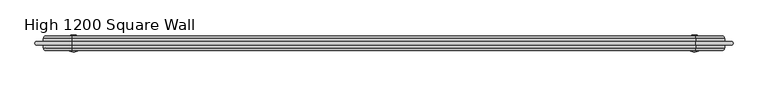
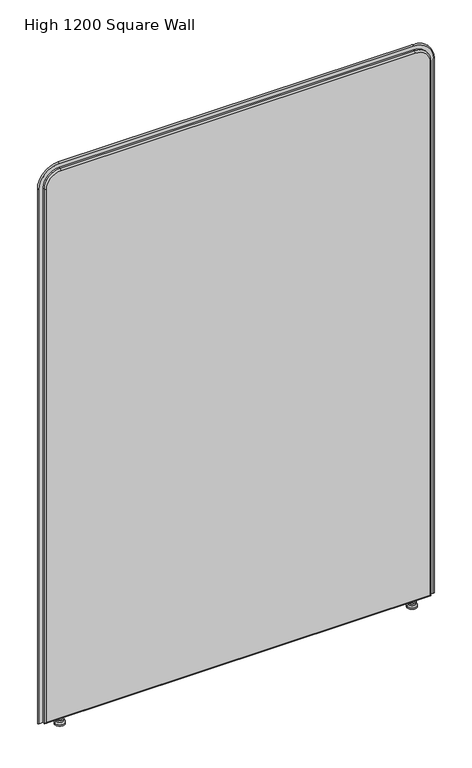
"""IFC4 building model written with IfcOpenShell, lengths in millimetres: furniture geometry, DBLTD_Sixteen3_PrivacyScreens_Artus_Square : High 1200 Square Wall."""

from ifc_helpers import new_model, si_unit, point, frame, origin, place, context, project, spatial, polyline, circle_curve, ellipse_curve, trimmed, source, transform, mapped, element, save
from ifc_brep_helpers import plane_surface, cylinder_surface, revolved_surface, advanced_brep


def high_1200_square_wall_9c159515(model_context):
    return source(origin(), model_context, "Body", "AdvancedBrep", [
        advanced_brep(
        [(542.2938623, 820.0, 22.0), (549.2938623, 820.0, 22.0), (535.2938623, 820.0, 22.0), (549.2938623, 820.0, 15.0), (535.2938623, 820.0, 15.0), (553.744562, 820.0, 15.0), (530.8431626, 820.0, 15.0), (553.744562, 820.0, 10.0), (530.8431626, 820.0, 10.0), (557.2938623, 820.0, 5.0), (527.2938623, 820.0, 5.0), (557.2938623, 820.0, 0.0), (527.2938623, 820.0, 0.0), (542.2938623, 820.0, 0.0)],
        [
            (0, 1),
            (1, 2, circle_curve(frame((542.2938623, 820.0, 22.0), z_axis=(0.0, 0.0, 1.0), x_axis=(1.0, 0.0, 0.0)), 7.0)),
            (2, 0),
            (2, 1, circle_curve(frame((542.2938623, 820.0, 22.0), z_axis=(0.0, 0.0, 1.0), x_axis=(1.0, 0.0, 0.0)), 7.0)),
            (1, 3),
            (3, 4, circle_curve(frame((542.2938623, 820.0, 15.0), z_axis=(0.0, 0.0, 1.0), x_axis=(1.0, 0.0, 0.0)), 7.0)),
            (4, 2),
            (4, 3, circle_curve(frame((542.2938623, 820.0, 15.0), z_axis=(0.0, 0.0, 1.0), x_axis=(1.0, 0.0, 0.0)), 7.0)),
            (3, 5),
            (5, 6, circle_curve(frame((542.2938623, 820.0, 15.0), z_axis=(0.0, 0.0, 1.0), x_axis=(1.0, 0.0, 0.0)), 11.4506997)),
            (6, 4),
            (6, 5, circle_curve(frame((542.2938623, 820.0, 15.0), z_axis=(0.0, 0.0, 1.0), x_axis=(1.0, 0.0, 0.0)), 11.4506997)),
            (5, 7),
            (7, 8, circle_curve(frame((542.2938623, 820.0, 10.0), z_axis=(0.0, 0.0, 1.0), x_axis=(1.0, 0.0, 0.0)), 11.4506997)),
            (8, 6),
            (8, 7, circle_curve(frame((542.2938623, 820.0, 10.0), z_axis=(0.0, 0.0, 1.0), x_axis=(1.0, 0.0, 0.0)), 11.4506997)),
            (7, 9),
            (9, 10, circle_curve(frame((542.2938623, 820.0, 5.0), z_axis=(0.0, 0.0, 1.0), x_axis=(1.0, 0.0, 0.0)), 15.0)),
            (10, 8),
            (10, 9, circle_curve(frame((542.2938623, 820.0, 5.0), z_axis=(0.0, 0.0, 1.0), x_axis=(1.0, 0.0, 0.0)), 15.0)),
            (9, 11),
            (11, 12, circle_curve(frame((542.2938623, 820.0, 0.0), z_axis=(0.0, 0.0, 1.0), x_axis=(1.0, 0.0, 0.0)), 15.0)),
            (12, 10),
            (12, 11, circle_curve(frame((542.2938623, 820.0, 0.0), z_axis=(0.0, 0.0, 1.0), x_axis=(1.0, 0.0, 0.0)), 15.0)),
            (11, 13),
            (13, 12),
        ],
        [
            plane_surface(frame((542.2938623, 820.0, 22.0), z_axis=(0.0, 0.0, 1.0), x_axis=(1.0, 0.0, 0.0))),
            cylinder_surface(frame((542.2938623, 820.0, 5.0), z_axis=(0.0, 0.0, 1.0), x_axis=(1.0, 0.0, 0.0)), 7.0),
            plane_surface(frame((542.2938623, 820.0, 15.0), z_axis=(0.0, 0.0, 1.0), x_axis=(1.0, 0.0, 0.0))),
            cylinder_surface(frame((542.2938623, 820.0, 5.0), z_axis=(0.0, 0.0, 1.0), x_axis=(1.0, 0.0, 0.0)), 11.4506997),
            revolved_surface(polyline([(557.2938623, 820.0, 5.0), (553.744562, 820.0, 10.0)]), (542.2938623, 820.0, 5.0), (0.0, 0.0, 1.0)),
            cylinder_surface(frame((542.2938623, 820.0, 5.0), z_axis=(0.0, 0.0, 1.0), x_axis=(1.0, 0.0, 0.0)), 15.0),
            plane_surface(frame((542.2938623, 820.0, 0.0), z_axis=(0.0, 0.0, -1.0), x_axis=(1.0, 0.0, 0.0))),
        ],
        [
            (0, [[1, 2, 3]]),
            (0, [[-3, 4, -1]]),
            (1, [[-2, 5, 6, 7]]),
            (1, [[-4, -7, 8, -5]]),
            (2, [[-6, 9, 10, 11]]),
            (2, [[-8, -11, 12, -9]]),
            (3, [[-10, 13, 14, 15]]),
            (3, [[-12, -15, 16, -13]]),
            (4, [[-14, 17, 18, 19]]),
            (4, [[-16, -19, 20, -17]]),
            (5, [[-18, 21, 22, 23]]),
            (5, [[-20, -23, 24, -21]]),
            (6, [[-22, 25, 26]]),
            (6, [[-24, -26, -25]]),
        ],
    ),
        advanced_brep(
        [(-535.2938623, 820.0, 22.0), (-549.2938623, 820.0, 22.0), (-542.2938623, 820.0, 22.0), (-535.2938623, 820.0, 15.0), (-549.2938623, 820.0, 15.0), (-530.8431626, 820.0, 15.0), (-553.744562, 820.0, 15.0), (-530.8431626, 820.0, 10.0), (-553.744562, 820.0, 10.0), (-527.2938623, 820.0, 5.0), (-557.2938623, 820.0, 5.0), (-527.2938623, 820.0, 0.0), (-557.2938623, 820.0, 0.0), (-542.2938623, 820.0, 0.0)],
        [
            (0, 1, circle_curve(frame((-542.2938623, 820.0, 22.0), z_axis=(0.0, 0.0, 1.0), x_axis=(-1.0, 0.0, 0.0)), 7.0)),
            (1, 2),
            (2, 0),
            (1, 0, circle_curve(frame((-542.2938623, 820.0, 22.0), z_axis=(0.0, 0.0, 1.0), x_axis=(-1.0, 0.0, 0.0)), 7.0)),
            (3, 4, circle_curve(frame((-542.2938623, 820.0, 15.0), z_axis=(0.0, 0.0, 1.0), x_axis=(-1.0, 0.0, 0.0)), 7.0)),
            (4, 1),
            (0, 3),
            (4, 3, circle_curve(frame((-542.2938623, 820.0, 15.0), z_axis=(0.0, 0.0, 1.0), x_axis=(-1.0, 0.0, 0.0)), 7.0)),
            (5, 6, circle_curve(frame((-542.2938623, 820.0, 15.0), z_axis=(0.0, 0.0, 1.0), x_axis=(-1.0, 0.0, 0.0)), 11.4506997)),
            (6, 4),
            (3, 5),
            (6, 5, circle_curve(frame((-542.2938623, 820.0, 15.0), z_axis=(0.0, 0.0, 1.0), x_axis=(-1.0, 0.0, 0.0)), 11.4506997)),
            (7, 8, circle_curve(frame((-542.2938623, 820.0, 10.0), z_axis=(0.0, 0.0, 1.0), x_axis=(-1.0, 0.0, 0.0)), 11.4506997)),
            (8, 6),
            (5, 7),
            (8, 7, circle_curve(frame((-542.2938623, 820.0, 10.0), z_axis=(0.0, 0.0, 1.0), x_axis=(-1.0, 0.0, 0.0)), 11.4506997)),
            (9, 10, circle_curve(frame((-542.2938623, 820.0, 5.0), z_axis=(0.0, 0.0, 1.0), x_axis=(-1.0, 0.0, 0.0)), 15.0)),
            (10, 8),
            (7, 9),
            (10, 9, circle_curve(frame((-542.2938623, 820.0, 5.0), z_axis=(0.0, 0.0, 1.0), x_axis=(-1.0, 0.0, 0.0)), 15.0)),
            (11, 12, circle_curve(frame((-542.2938623, 820.0, 0.0), z_axis=(0.0, 0.0, 1.0), x_axis=(-1.0, 0.0, 0.0)), 15.0)),
            (12, 10),
            (9, 11),
            (12, 11, circle_curve(frame((-542.2938623, 820.0, 0.0), z_axis=(0.0, 0.0, 1.0), x_axis=(-1.0, 0.0, 0.0)), 15.0)),
            (13, 12),
            (11, 13),
        ],
        [
            plane_surface(frame((-542.2938623, 820.0, 22.0), z_axis=(0.0, 0.0, 1.0), x_axis=(-1.0, 0.0, 0.0))),
            cylinder_surface(frame((-542.2938623, 820.0, 5.0), z_axis=(0.0, 0.0, -1.0), x_axis=(-1.0, 0.0, 0.0)), 7.0),
            plane_surface(frame((-542.2938623, 820.0, 15.0), z_axis=(0.0, 0.0, 1.0), x_axis=(-1.0, 0.0, 0.0))),
            cylinder_surface(frame((-542.2938623, 820.0, 5.0), z_axis=(0.0, 0.0, -1.0), x_axis=(-1.0, 0.0, 0.0)), 11.4506997),
            revolved_surface(polyline([(-553.744562, 820.0, 10.0), (-557.2938623, 820.0, 5.0)]), (-542.2938623, 820.0, 5.0), (0.0, 0.0, -1.0)),
            cylinder_surface(frame((-542.2938623, 820.0, 5.0), z_axis=(0.0, 0.0, -1.0), x_axis=(-1.0, 0.0, 0.0)), 15.0),
            plane_surface(frame((-542.2938623, 820.0, 0.0), z_axis=(0.0, 0.0, -1.0), x_axis=(-1.0, 0.0, 0.0))),
        ],
        [
            (0, [[1, 2, 3]]),
            (0, [[4, -3, -2]]),
            (1, [[5, 6, -1, 7]]),
            (1, [[8, -7, -4, -6]]),
            (2, [[9, 10, -5, 11]]),
            (2, [[12, -11, -8, -10]]),
            (3, [[13, 14, -9, 15]]),
            (3, [[16, -15, -12, -14]]),
            (4, [[17, 18, -13, 19]]),
            (4, [[20, -19, -16, -18]]),
            (5, [[21, 22, -17, 23]]),
            (5, [[24, -23, -20, -22]]),
            (6, [[25, -21, 26]]),
            (6, [[-26, -24, -25]]),
        ],
    ),
        advanced_brep(
        [(-590.0, 807.0, 27.0), (590.0, 807.0, 27.0), (590.0, 807.0, 1760.0), (545.0, 807.0, 1805.0), (-545.0, 807.0, 1805.0), (-590.0, 807.0, 1760.0), (590.0, 833.0, 27.0), (-590.0, 833.0, 27.0), (-590.0, 833.0, 1760.0), (-545.0, 833.0, 1805.0), (545.0, 833.0, 1805.0), (590.0, 833.0, 1760.0), (545.0, 811.9999934, 1810.0), (545.0, 828.0, 1810.0), (-545.0, 828.0, 1810.0), (-545.0, 812.0, 1810.0), (-595.0, 828.0, 1760.0), (-595.0, 811.9999923, 1760.0), (-595.0, 828.0, 22.0), (-595.0, 812.0, 22.0), (595.0, 828.0, 22.0), (595.0, 812.0, 22.0), (595.0, 828.0, 1760.0), (595.0, 812.0, 1760.0)],
        [
            (0, 1),
            (1, 2),
            (2, 3, circle_curve(frame((545.0, 807.0, 1760.0), z_axis=(0.0, -1.0, 0.0), x_axis=(1.0, 0.0, 0.0)), 45.0)),
            (3, 4),
            (4, 5, circle_curve(frame((-545.0, 807.0, 1760.0), z_axis=(0.0, -1.0, 0.0), x_axis=(0.0, 0.0, 1.0)), 45.0)),
            (5, 0),
            (6, 7),
            (7, 8),
            (8, 9, circle_curve(frame((-545.0, 833.0, 1760.0), z_axis=(0.0, 1.0, 0.0), x_axis=(0.0, 0.0, 1.0)), 45.0)),
            (9, 10),
            (10, 11, circle_curve(frame((545.0, 833.0, 1760.0), z_axis=(0.0, 1.0, 0.0), x_axis=(1.0, 0.0, 0.0)), 45.0)),
            (11, 6),
            (12, 13),
            (13, 14),
            (14, 15),
            (15, 12),
            (14, 16, circle_curve(frame((-545.0, 828.0, 1760.0), z_axis=(0.0, -1.0, 0.0), x_axis=(1.0, 0.0, 0.0)), 50.0)),
            (16, 17),
            (17, 15, circle_curve(frame((-545.0, 812.0, 1760.0), z_axis=(0.0, 1.0, 0.0), x_axis=(1.0, 0.0, 0.0)), 50.0)),
            (16, 18),
            (18, 19),
            (19, 17),
            (18, 20),
            (20, 21),
            (21, 19),
            (20, 22),
            (22, 23),
            (23, 21),
            (12, 23, circle_curve(frame((545.0, 812.0, 1760.0), z_axis=(0.0, 1.0, 0.0), x_axis=(1.0, 0.0, 0.0)), 50.0)),
            (22, 13, circle_curve(frame((545.0, 828.0, 1760.0), z_axis=(0.0, -1.0, 0.0), x_axis=(1.0, 0.0, 0.0)), 50.0)),
            (21, 1, ellipse_curve(frame((590.0, 812.0, 27.0), z_axis=(-0.7071067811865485, 0.0, -0.7071067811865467), x_axis=(0.7071067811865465, 0.0, -0.7071067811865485)), 7.0710678, 5.0)),
            (0, 19, ellipse_curve(frame((-590.0, 812.0, 27.0), z_axis=(0.7071067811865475, 0.0, -0.7071067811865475), x_axis=(0.7071067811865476, 0.0, 0.7071067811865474)), 7.0710678, 5.0)),
            (6, 20, ellipse_curve(frame((590.0, 828.0, 27.0), z_axis=(-0.7071067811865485, 0.0, -0.7071067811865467), x_axis=(0.7071067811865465, 0.0, -0.7071067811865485)), 7.0710678, 5.0)),
            (18, 7, ellipse_curve(frame((-590.0, 828.0, 27.0), z_axis=(0.7071067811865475, 0.0, -0.7071067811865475), x_axis=(0.7071067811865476, 0.0, 0.7071067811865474)), 7.0710678, 5.0)),
            (23, 2, circle_curve(frame((590.0, 812.0, 1760.0), z_axis=(0.0, 0.0, -1.0), x_axis=(1.0, 0.0, 0.0)), 5.0)),
            (11, 22, circle_curve(frame((590.0, 828.0, 1760.0), z_axis=(0.0, 0.0, -1.0), x_axis=(1.0, 0.0, 0.0)), 5.0)),
            (12, 3, circle_curve(frame((545.0, 812.0, 1805.0), z_axis=(1.0, 0.0, 0.0), x_axis=(0.0, 0.0, 1.0)), 5.0)),
            (10, 13, circle_curve(frame((545.0, 828.0, 1805.0), z_axis=(1.0, 0.0, 0.0), x_axis=(0.0, 0.0, 1.0)), 5.0)),
            (15, 4, circle_curve(frame((-545.0, 812.0, 1805.0), z_axis=(1.0, 0.0, 0.0), x_axis=(0.0, 0.0, 1.0)), 5.0)),
            (9, 14, circle_curve(frame((-545.0, 828.0, 1805.0), z_axis=(1.0, 0.0, 0.0), x_axis=(0.0, 0.0, 1.0)), 5.0)),
            (17, 5, circle_curve(frame((-590.0, 812.0, 1760.0), z_axis=(0.0, 0.0, 1.0), x_axis=(-1.0, 0.0, 0.0)), 5.0)),
            (8, 16, circle_curve(frame((-590.0, 828.0, 1760.0), z_axis=(0.0, 0.0, 1.0), x_axis=(-1.0, 0.0, 0.0)), 5.0)),
        ],
        [
            plane_surface(frame((-545.0, 807.0, 1810.0), z_axis=(0.0, -1.0, 0.0), x_axis=(-1.0, 0.0, 0.0))),
            plane_surface(frame((-545.0, 833.0, 1810.0), z_axis=(0.0, 1.0, 0.0), x_axis=(1.0, 0.0, 0.0))),
            plane_surface(frame((545.0, 807.0, 1810.0), z_axis=(0.0, 0.0, 1.0), x_axis=(0.0, 1.0, 0.0))),
            cylinder_surface(frame((-545.0, 833.0, 1760.0), z_axis=(0.0, -1.0, 0.0), x_axis=(1.0, 0.0, 0.0)), 50.0),
            plane_surface(frame((-595.0, 807.0, 1760.0), z_axis=(-1.0, 0.0, 0.0), x_axis=(0.0, 1.0, 0.0))),
            plane_surface(frame((-595.0, 807.0, 22.0), z_axis=(0.0, 0.0, -1.0), x_axis=(0.0, 1.0, 0.0))),
            plane_surface(frame((595.0, 807.0, 22.0), z_axis=(1.0, 0.0, 0.0), x_axis=(0.0, 1.0, 0.0))),
            cylinder_surface(frame((545.0, 833.0, 1760.0), z_axis=(0.0, -1.0, 0.0), x_axis=(1.0, 0.0, 0.0)), 50.0),
            cylinder_surface(frame((-595.0, 812.0, 27.0), z_axis=(1.0, 0.0, 0.0), x_axis=(0.0, 0.0, -1.0)), 5.0),
            cylinder_surface(frame((-595.0, 828.0, 27.0), z_axis=(1.0, 0.0, 0.0), x_axis=(0.0, 0.0, -1.0)), 5.0),
            cylinder_surface(frame((590.0, 812.0, 22.0), z_axis=(0.0, 0.0, 1.0), x_axis=(1.0, 0.0, 0.0)), 5.0),
            cylinder_surface(frame((590.0, 828.0, 22.0), z_axis=(0.0, 0.0, 1.0), x_axis=(1.0, 0.0, 0.0)), 5.0),
            revolved_surface(trimmed(ellipse_curve(frame((590.0, 812.0, 1760.0), z_axis=(0.0, 0.0, -1.0), x_axis=(1.0, 0.0, 0.0)), 5.0, 5.0), [point((595.0, 812.0, 1760.0))], [point((590.0, 807.0, 1760.0))], True, "CARTESIAN"), (545.0, 807.0, 1760.0), (0.0, -1.0, 0.0)),
            revolved_surface(trimmed(ellipse_curve(frame((590.0, 828.0, 1760.0), z_axis=(0.0, 0.0, -1.0), x_axis=(1.0, 0.0, 0.0)), 5.0, 5.0), [point((590.0, 833.0, 1760.0))], [point((595.0, 828.0, 1760.0))], True, "CARTESIAN"), (545.0, 807.0, 1760.0), (0.0, -1.0, 0.0)),
            cylinder_surface(frame((545.0, 812.0, 1805.0), z_axis=(-1.0, 0.0, 0.0), x_axis=(0.0, 0.0, 1.0)), 5.0),
            cylinder_surface(frame((545.0, 828.0, 1805.0), z_axis=(-1.0, 0.0, 0.0), x_axis=(0.0, 0.0, 1.0)), 5.0),
            revolved_surface(trimmed(ellipse_curve(frame((-545.0, 812.0, 1805.0), z_axis=(1.0, 0.0, 0.0), x_axis=(0.0, 0.0, 1.0)), 5.0, 5.0), [point((-545.0, 812.0, 1810.0))], [point((-545.0, 807.0, 1805.0))], True, "CARTESIAN"), (-545.0, 807.0, 1760.0), (0.0, -1.0, 0.0)),
            revolved_surface(trimmed(ellipse_curve(frame((-545.0, 828.0, 1805.0), z_axis=(1.0, 0.0, 0.0), x_axis=(0.0, 0.0, 1.0)), 5.0, 5.0), [point((-545.0, 833.0, 1805.0))], [point((-545.0, 828.0, 1810.0))], True, "CARTESIAN"), (-545.0, 807.0, 1760.0), (0.0, -1.0, 0.0)),
            cylinder_surface(frame((-590.0, 812.0, 1760.0), z_axis=(0.0, 0.0, -1.0), x_axis=(-1.0, 0.0, 0.0)), 5.0),
            cylinder_surface(frame((-590.0, 828.0, 1760.0), z_axis=(0.0, 0.0, -1.0), x_axis=(-1.0, 0.0, 0.0)), 5.0),
        ],
        [
            (0, [[1, 2, 3, 4, 5, 6]]),
            (1, [[7, 8, 9, 10, 11, 12]]),
            (2, [[13, 14, 15, 16]]),
            (3, [[-15, 17, 18, 19]]),
            (4, [[-18, 20, 21, 22]]),
            (5, [[-21, 23, 24, 25]]),
            (6, [[-24, 26, 27, 28]]),
            (7, [[-13, 29, -27, 30]]),
            (8, [[31, -1, 32, -25]]),
            (9, [[33, -23, 34, -7]]),
            (10, [[-31, -28, 35, -2]]),
            (11, [[-33, -12, 36, -26]]),
            (12, [[-35, -29, 37, -3]]),
            (13, [[-36, -11, 38, -30]]),
            (14, [[-37, -16, 39, -4]]),
            (15, [[-38, -10, 40, -14]]),
            (16, [[-39, -19, 41, -5]]),
            (17, [[-40, -9, 42, -17]]),
            (18, [[-32, -6, -41, -22]]),
            (19, [[-34, -20, -42, -8]]),
        ],
    ),
        advanced_brep(
        [(606.9577057, 823.0, 22.0), (606.9577057, 817.0, 22.0), (595.0, 817.0, 22.0), (595.0, 823.0, 22.0), (606.9577057, 823.0, 1760.0), (606.9577057, 817.0, 1760.0), (545.0, 817.0, 1821.9577057), (-545.0, 817.0, 1821.9577057), (-606.9577057, 817.0, 1760.0), (-606.9577057, 817.0, 22.0), (-595.0, 817.0, 22.0), (-595.0, 817.0, 1760.0), (-545.0, 817.0, 1810.0), (545.0, 817.0, 1810.0), (595.0, 817.0, 1760.0), (595.0, 823.0, 1760.0), (545.0, 823.0, 1810.0), (-545.0, 823.0, 1810.0), (-595.0, 823.0, 1760.0), (-595.0, 823.0, 22.0), (-606.9577057, 823.0, 22.0), (-606.9577057, 823.0, 1760.0), (-545.0, 823.0, 1821.9577057), (545.0, 823.0, 1821.9577057)],
        [
            (0, 1, circle_curve(frame((606.9577057, 820.0, 22.0), z_axis=(0.0, 0.0, -1.0), x_axis=(1.0, 0.0, 0.0)), 3.0)),
            (1, 2),
            (2, 3),
            (3, 0),
            (0, 4),
            (4, 5, circle_curve(frame((606.9577057, 820.0, 1760.0), z_axis=(0.0, 0.0, -1.0), x_axis=(1.0, 0.0, 0.0)), 3.0)),
            (5, 1),
            (5, 6, circle_curve(frame((545.0, 817.0, 1760.0), z_axis=(0.0, -1.0, 0.0), x_axis=(1.0, 0.0, 0.0)), 61.9577057)),
            (6, 7),
            (7, 8, circle_curve(frame((-545.0, 817.0, 1760.0), z_axis=(0.0, -1.0, 0.0), x_axis=(0.0, 0.0, 1.0)), 61.9577057)),
            (8, 9),
            (9, 10),
            (10, 11),
            (11, 12, circle_curve(frame((-545.0, 817.0, 1760.0), z_axis=(0.0, 1.0, 0.0), x_axis=(0.0, 0.0, 1.0)), 50.0)),
            (12, 13),
            (13, 14, circle_curve(frame((545.0, 817.0, 1760.0), z_axis=(0.0, 1.0, 0.0), x_axis=(1.0, 0.0, 0.0)), 50.0)),
            (14, 2),
            (14, 15),
            (15, 3),
            (15, 16, circle_curve(frame((545.0, 823.0, 1760.0), z_axis=(0.0, -1.0, 0.0), x_axis=(1.0, 0.0, 0.0)), 50.0)),
            (16, 17),
            (17, 18, circle_curve(frame((-545.0, 823.0, 1760.0), z_axis=(0.0, -1.0, 0.0), x_axis=(0.0, 0.0, 1.0)), 50.0)),
            (18, 19),
            (19, 20),
            (20, 21),
            (21, 22, circle_curve(frame((-545.0, 823.0, 1760.0), z_axis=(0.0, 1.0, 0.0), x_axis=(0.0, 0.0, 1.0)), 61.9577057)),
            (22, 23),
            (23, 4, circle_curve(frame((545.0, 823.0, 1760.0), z_axis=(0.0, 1.0, 0.0), x_axis=(1.0, 0.0, 0.0)), 61.9577057)),
            (23, 6, circle_curve(frame((545.0, 820.0, 1821.9577057), z_axis=(1.0, 0.0, 0.0), x_axis=(0.0, 0.0, 1.0)), 3.0)),
            (13, 16),
            (22, 7, circle_curve(frame((-545.0, 820.0, 1821.9577057), z_axis=(1.0, 0.0, 0.0), x_axis=(0.0, 0.0, 1.0)), 3.0)),
            (12, 17),
            (21, 8, circle_curve(frame((-606.9577057, 820.0, 1760.0), z_axis=(0.0, 0.0, 1.0), x_axis=(-1.0, 0.0, 0.0)), 3.0)),
            (11, 18),
            (19, 10),
            (9, 20, circle_curve(frame((-606.9577057, 820.0, 22.0), z_axis=(0.0, 0.0, -1.0), x_axis=(-1.0, 0.0, 0.0)), 3.0)),
        ],
        [
            plane_surface(frame((595.0, 807.0, 22.0), z_axis=(0.0, 0.0, -1.0), x_axis=(1.0, 0.0, 0.0))),
            cylinder_surface(frame((606.9577057, 820.0, 22.0), z_axis=(0.0, 0.0, -1.0), x_axis=(1.0, 0.0, 0.0)), 3.0),
            plane_surface(frame((606.9577057, 817.0, 22.0), z_axis=(0.0, -1.0, 0.0), x_axis=(0.0, 0.0, 1.0))),
            plane_surface(frame((595.0, 817.0, 22.0), z_axis=(-1.0, 0.0, 0.0), x_axis=(0.0, 0.0, 1.0))),
            plane_surface(frame((595.0, 823.0, 22.0), z_axis=(0.0, 1.0, 0.0), x_axis=(0.0, 0.0, 1.0))),
            revolved_surface(trimmed(ellipse_curve(frame((606.9577057, 820.0, 1760.0), z_axis=(0.0, 0.0, -1.0), x_axis=(1.0, 0.0, 0.0)), 3.0, 3.0), [point((606.9577057, 823.0, 1760.0))], [point((606.9577057, 817.0, 1760.0))], True, "CARTESIAN"), (545.0, 807.0, 1760.0), (0.0, -1.0, 0.0)),
            revolved_surface(polyline([(595.0, 817.0, 1760.0), (595.0, 823.0, 1760.0)]), (545.0, 807.0, 1760.0), (0.0, -1.0, 0.0)),
            cylinder_surface(frame((545.0, 820.0, 1821.9577057), z_axis=(1.0, 0.0, 0.0), x_axis=(0.0, 0.0, 1.0)), 3.0),
            plane_surface(frame((545.0, 817.0, 1810.0), z_axis=(0.0, 0.0, -1.0), x_axis=(-1.0, 0.0, 0.0))),
            revolved_surface(trimmed(ellipse_curve(frame((-545.0, 820.0, 1821.9577057), z_axis=(1.0, 0.0, 0.0), x_axis=(0.0, 0.0, 1.0)), 3.0, 3.0), [point((-545.0, 823.0, 1821.9577057))], [point((-545.0, 817.0, 1821.9577057))], True, "CARTESIAN"), (-545.0, 807.0, 1760.0), (0.0, -1.0, 0.0)),
            revolved_surface(polyline([(-545.0, 817.0, 1810.0), (-545.0, 823.0, 1810.0)]), (-545.0, 807.0, 1760.0), (0.0, -1.0, 0.0)),
            plane_surface(frame((-595.0, 807.0, 22.0), z_axis=(0.0, 0.0, -1.0), x_axis=(-1.0, 0.0, 0.0))),
            cylinder_surface(frame((-606.9577057, 820.0, 1760.0), z_axis=(0.0, 0.0, 1.0), x_axis=(-1.0, 0.0, 0.0)), 3.0),
            plane_surface(frame((-595.0, 817.0, 1760.0), z_axis=(1.0, 0.0, 0.0), x_axis=(0.0, 0.0, -1.0))),
        ],
        [
            (0, [[1, 2, 3, 4]]),
            (1, [[-1, 5, 6, 7]]),
            (2, [[-2, -7, 8, 9, 10, 11, 12, 13, 14, 15, 16, 17]]),
            (3, [[-3, -17, 18, 19]]),
            (4, [[-4, -19, 20, 21, 22, 23, 24, 25, 26, 27, 28, -5]]),
            (5, [[-8, -6, -28, 29]]),
            (6, [[-20, -18, -16, 30]]),
            (7, [[-29, -27, 31, -9]]),
            (8, [[-30, -15, 32, -21]]),
            (9, [[-10, -31, -26, 33]]),
            (10, [[-22, -32, -14, 34]]),
            (11, [[-24, 35, -12, 36]]),
            (12, [[-33, -25, -36, -11]]),
            (13, [[-34, -13, -35, -23]]),
        ],
    ),
    ])


if __name__ == "__main__":
    model = new_model("IFC4")
    model_context = context("Model", 3, world=origin())
    ifc_project = project(units=[si_unit("LENGTHUNIT", "METRE", prefix="MILLI")], contexts=[model_context])
    site = spatial("IfcSite", under=ifc_project)
    building = spatial("IfcBuilding", under=site)
    placement = place(None, origin())
    high_1200_square_wall_shape = high_1200_square_wall_9c159515(model_context)
    element("IfcFurniture", 1, ObjectType="DBLTD_Sixteen3_PrivacyScreens_Artus_Square : High 1200 Square Wall", at=placement, inside=building, context=model_context, shape_type="MappedRepresentation", body=[
        mapped(high_1200_square_wall_shape, transform((0.0, 0.0, 0.0), x_axis=(1.0, 0.0, 0.0), y_axis=(0.0, 1.0, 0.0), z_axis=(0.0, 0.0, 1.0))),
    ])
    save(model, "model.ifc")
